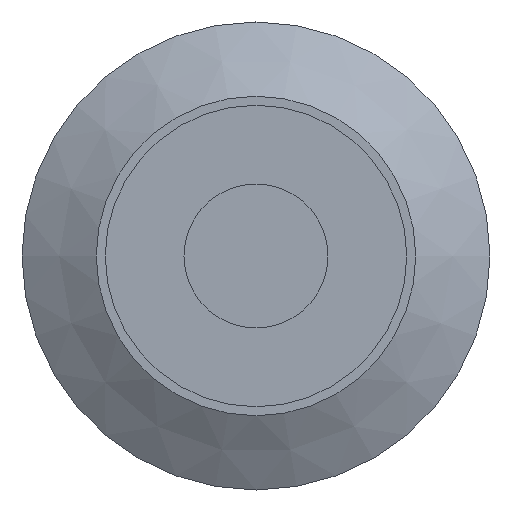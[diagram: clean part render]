
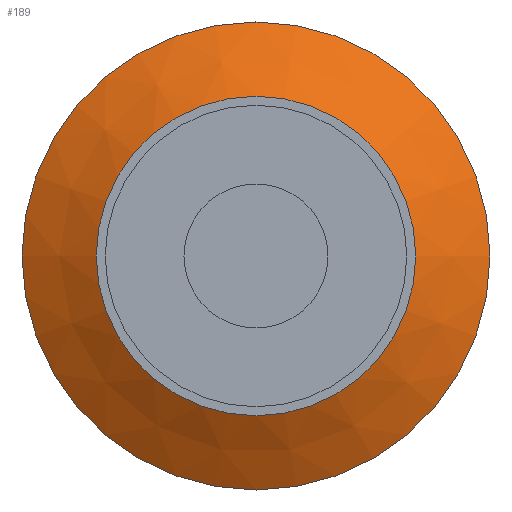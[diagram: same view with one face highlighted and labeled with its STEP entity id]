
A CAD part, left-side view. The second image highlights one B-rep face of the part: STEP entity #189.
In plain terms, the highlighted conical face has half-angle 60 degrees and reference radius 3.55 mm.
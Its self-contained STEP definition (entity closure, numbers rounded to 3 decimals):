
#20=CONICAL_SURFACE('',#227,3.55,1.047);
#44=ORIENTED_EDGE('',*,*,#69,.F.);
#45=ORIENTED_EDGE('',*,*,#68,.T.);
#68=EDGE_CURVE('',#84,#84,#100,.T.);
#69=EDGE_CURVE('',#85,#85,#101,.T.);
#84=VERTEX_POINT('',#336);
#85=VERTEX_POINT('',#339);
#100=CIRCLE('',#226,3.55);
#101=CIRCLE('',#228,5.2);
#124=EDGE_LOOP('',(#44));
#125=EDGE_LOOP('',(#45));
#156=FACE_BOUND('',#124,.T.);
#157=FACE_BOUND('',#125,.T.);
#189=ADVANCED_FACE('',(#156,#157),#20,.T.);
#226=AXIS2_PLACEMENT_3D('',#335,#276,#277);
#227=AXIS2_PLACEMENT_3D('',#337,#278,#279);
#228=AXIS2_PLACEMENT_3D('',#338,#280,#281);
#276=DIRECTION('',(1.,0.,0.));
#277=DIRECTION('',(0.,1.,0.));
#278=DIRECTION('',(1.,0.,0.));
#279=DIRECTION('',(0.,1.,0.));
#280=DIRECTION('',(1.,0.,0.));
#281=DIRECTION('',(0.,1.,0.));
#335=CARTESIAN_POINT('',(13.047,0.,0.));
#336=CARTESIAN_POINT('',(13.047,3.55,0.));
#337=CARTESIAN_POINT('',(13.047,0.,0.));
#338=CARTESIAN_POINT('',(14.,0.,0.));
#339=CARTESIAN_POINT('',(14.,5.2,0.));
